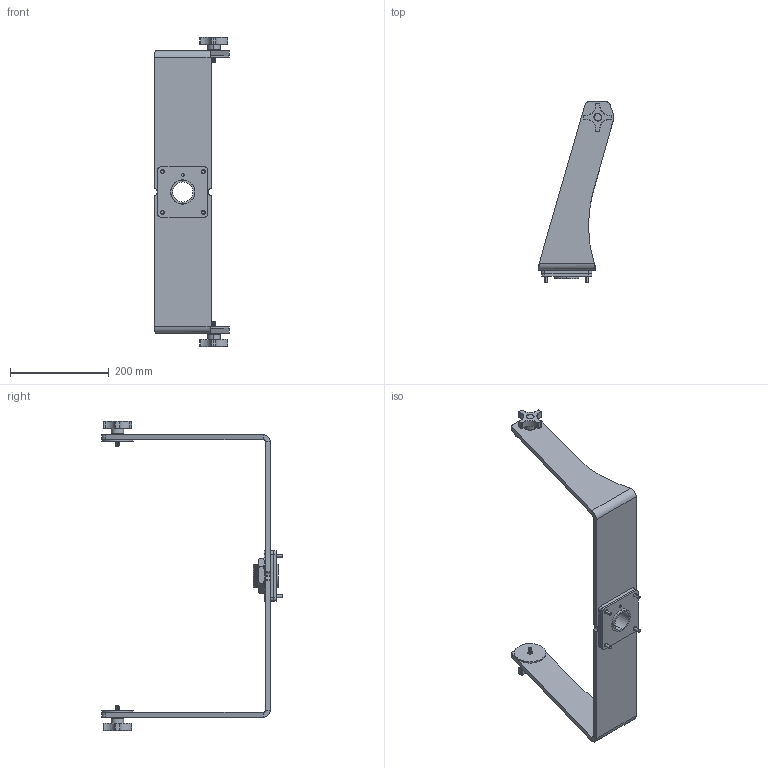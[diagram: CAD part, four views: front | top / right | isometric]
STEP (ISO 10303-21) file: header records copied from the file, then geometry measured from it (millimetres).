
FILE_DESCRIPTION (( 'STEP AP214' ), '1' );
FILE_NAME ('Pedestal and Benchtop Yoke for 22 inch Universal Mount Monitor, YB22.STEP', '2017-07-18T14:27:18', ( '' ), ( '' ), 'SwSTEP 2.0', 'SolidWorks 2017', '' );
FILE_SCHEMA (( 'AUTOMOTIVE_DESIGN' ));
Length unit declared in the file: inch
Products named in the file (12): 10105; Knob, 30053; Bearing Plate, 10078; Rubber Washer, 10177; 9157K370_STD-WALL 304-304L SS THRD ONE END PIPE NIPPLE_9157K37; All Yoke Configurations, YBxx_YK22; Bushing, 30500; Nut, 30060; Pedestal and Benchtop Yoke for 22 inch Universal Mount Monitor, YB22; Washer, 10143; Screw, 30078_CR-FHMS 0.25-20x0.875x0.875-N; Bench Plate, 10105
Assembly tree (17 placements, depth 3):
  Pedestal and Benchtop Yoke for 22 inch Universal Mount Monitor, YB22
    All Yoke Configurations, YBxx_YK22
    Bearing Plate, 10078
    Bench Plate, 10105
      10105
      9157K370_STD-WALL 304-304L SS THRD ONE END PIPE NIPPLE_9157K37
    Screw, 30078_CR-FHMS 0.25-20x0.875x0.875-N  x4
    Washer, 10143
    Nut, 30060
    Bushing, 30500  x2
    Rubber Washer, 10177  x2
    Knob, 30053  x2
Bounding box: 151.52 x 365.2 x 625.5 mm (x, y, z)
Volume: 1261640.7 mm3; surface area: 356231.2 mm2
Topology: 16 solids, 16 shells, 808 faces, 1799 edges, 1020 vertices
Faces by surface type: cylinder 344, cone 239, plane 128, torus 48, sphere 40, bspline 9
Entity records: 24007 total; most frequent: CARTESIAN_POINT 12628, DIRECTION 2319, ORIENTED_EDGE 2230, EDGE_CURVE 1115, AXIS2_PLACEMENT_3D 932, VERTEX_POINT 653, EDGE_LOOP 532, ADVANCED_FACE 488
